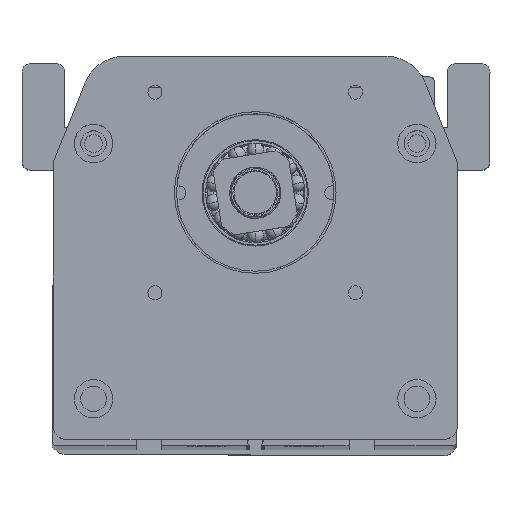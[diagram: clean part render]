
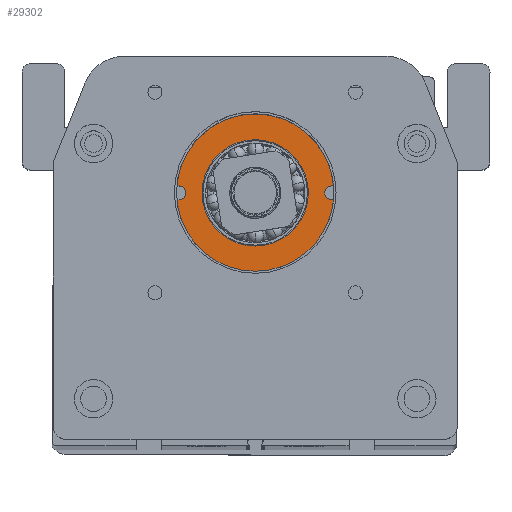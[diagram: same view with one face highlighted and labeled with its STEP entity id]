
A CAD part, top view. The second image highlights one B-rep face of the part: STEP entity #29302.
In plain terms, the highlighted planar face has unit normal (0, 0, 1) as drawn and (0, 0, -1) by its records, which use the part's own axes.
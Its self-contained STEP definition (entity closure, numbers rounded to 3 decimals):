
#535 = DIRECTION ( 'NONE',  ( 0., 0., -1. ) ) ;
#1236 = VERTEX_POINT ( 'NONE', #11070 ) ;
#1275 = CARTESIAN_POINT ( 'NONE',  ( 22.387, 121.669, 51. ) ) ;
#1483 = DIRECTION ( 'NONE',  ( -1., 0., 0. ) ) ;
#1693 = ORIENTED_EDGE ( 'NONE', *, *, #15976, .T. ) ;
#2943 = ORIENTED_EDGE ( 'NONE', *, *, #37192, .F. ) ;
#2957 = DIRECTION ( 'NONE',  ( 0., 0., -1. ) ) ;
#3903 = CARTESIAN_POINT ( 'NONE',  ( 26.737, 172.669, 51. ) ) ;
#4554 = ORIENTED_EDGE ( 'NONE', *, *, #18335, .T. ) ;
#4703 = EDGE_CURVE ( 'NONE', #13064, #36298, #19117, .T. ) ;
#5327 = LINE ( 'NONE', #12278, #20343 ) ;
#5365 = EDGE_CURVE ( 'NONE', #36298, #13064, #11065, .T. ) ;
#6071 = EDGE_CURVE ( 'NONE', #24659, #21036, #17777, .T. ) ;
#6321 = VERTEX_POINT ( 'NONE', #22342 ) ;
#7499 = VERTEX_POINT ( 'NONE', #37411 ) ;
#7793 = CARTESIAN_POINT ( 'NONE',  ( 20.737, 121.669, 51. ) ) ;
#7903 = CIRCLE ( 'NONE', #18409, 18.5 ) ;
#8096 = AXIS2_PLACEMENT_3D ( 'NONE', #32168, #17189, #38153 ) ;
#8522 = CARTESIAN_POINT ( 'NONE',  ( 0., 148.669, 51. ) ) ;
#9761 = VECTOR ( 'NONE', #15971, 1000. ) ;
#10241 = DIRECTION ( 'NONE',  ( 0., 0., -1. ) ) ;
#10298 = CARTESIAN_POINT ( 'NONE',  ( 38.737, 121.669, 51. ) ) ;
#10783 = DIRECTION ( 'NONE',  ( -1., 0., 0. ) ) ;
#10807 = EDGE_CURVE ( 'NONE', #32554, #7499, #32050, .T. ) ;
#11065 = CIRCLE ( 'NONE', #18578, 12.5 ) ;
#11070 = CARTESIAN_POINT ( 'NONE',  ( 20.306, 123.262, 51. ) ) ;
#11121 = PLANE ( 'NONE',  #8096 ) ;
#11403 = ORIENTED_EDGE ( 'NONE', *, *, #22640, .T. ) ;
#11867 = VERTEX_POINT ( 'NONE', #16610 ) ;
#12278 = CARTESIAN_POINT ( 'NONE',  ( 50.737, 172.669, 51. ) ) ;
#12319 = DIRECTION ( 'NONE',  ( 0., 0., -1. ) ) ;
#12494 = ORIENTED_EDGE ( 'NONE', *, *, #38369, .T. ) ;
#12660 = FACE_OUTER_BOUND ( 'NONE', #35994, .T. ) ;
#13062 = DIRECTION ( 'NONE',  ( 0., 0., -1. ) ) ;
#13064 = VERTEX_POINT ( 'NONE', #24551 ) ;
#13337 = DIRECTION ( 'NONE',  ( -1., 0., 0. ) ) ;
#13383 = CARTESIAN_POINT ( 'NONE',  ( 26.237, 121.669, 51. ) ) ;
#14321 = ORIENTED_EDGE ( 'NONE', *, *, #23495, .T. ) ;
#15159 = EDGE_CURVE ( 'NONE', #1236, #25684, #24048, .T. ) ;
#15877 = CARTESIAN_POINT ( 'NONE',  ( 38.737, 121.669, 51. ) ) ;
#15971 = DIRECTION ( 'NONE',  ( 0., -1., 0. ) ) ;
#15976 = EDGE_CURVE ( 'NONE', #32554, #11867, #28272, .T. ) ;
#16610 = CARTESIAN_POINT ( 'NONE',  ( 20.306, 120.076, 51. ) ) ;
#16846 = DIRECTION ( 'NONE',  ( 1., 0., 0. ) ) ;
#17189 = DIRECTION ( 'NONE',  ( 0., 0., -1. ) ) ;
#17445 = EDGE_LOOP ( 'NONE', ( #23437, #36715 ) ) ;
#17777 = LINE ( 'NONE', #3903, #9761 ) ;
#17880 = CARTESIAN_POINT ( 'NONE',  ( 26.737, 135.749, 51. ) ) ;
#18062 = AXIS2_PLACEMENT_3D ( 'NONE', #10298, #31364, #13337 ) ;
#18335 = EDGE_CURVE ( 'NONE', #23414, #6321, #7903, .T. ) ;
#18347 = DIRECTION ( 'NONE',  ( 0., -1., 0. ) ) ;
#18409 = AXIS2_PLACEMENT_3D ( 'NONE', #37392, #19442, #1483 ) ;
#18488 = CARTESIAN_POINT ( 'NONE',  ( 38.737, 121.669, 51. ) ) ;
#18578 = AXIS2_PLACEMENT_3D ( 'NONE', #30350, #12319, #33350 ) ;
#18869 = DIRECTION ( 'NONE',  ( -1., 0., 0. ) ) ;
#19117 = CIRCLE ( 'NONE', #18062, 12.5 ) ;
#19442 = DIRECTION ( 'NONE',  ( 0., 0., -1. ) ) ;
#20262 = LINE ( 'NONE', #8522, #34353 ) ;
#20343 = VECTOR ( 'NONE', #18347, 1000. ) ;
#20352 = AXIS2_PLACEMENT_3D ( 'NONE', #18488, #535, #21509 ) ;
#20592 = AXIS2_PLACEMENT_3D ( 'NONE', #7793, #28830, #10783 ) ;
#20929 = CARTESIAN_POINT ( 'NONE',  ( 56.737, 121.669, 51. ) ) ;
#20997 = AXIS2_PLACEMENT_3D ( 'NONE', #28268, #10241, #31297 ) ;
#21036 = VERTEX_POINT ( 'NONE', #17880 ) ;
#21366 = CIRCLE ( 'NONE', #23430, 1.65 ) ;
#21414 = CARTESIAN_POINT ( 'NONE',  ( 26.737, 148.669, 51. ) ) ;
#21509 = DIRECTION ( 'NONE',  ( -1., 0., 0. ) ) ;
#22342 = CARTESIAN_POINT ( 'NONE',  ( 57.169, 123.262, 51. ) ) ;
#22640 = EDGE_CURVE ( 'NONE', #24659, #34919, #20262, .T. ) ;
#23414 = VERTEX_POINT ( 'NONE', #33333 ) ;
#23430 = AXIS2_PLACEMENT_3D ( 'NONE', #20929, #2957, #23926 ) ;
#23437 = ORIENTED_EDGE ( 'NONE', *, *, #5365, .F. ) ;
#23495 = EDGE_CURVE ( 'NONE', #1236, #21036, #29652, .T. ) ;
#23926 = DIRECTION ( 'NONE',  ( -1., 0., 0. ) ) ;
#24048 = CIRCLE ( 'NONE', #20592, 1.65 ) ;
#24163 = EDGE_CURVE ( 'NONE', #25684, #11867, #24709, .T. ) ;
#24551 = CARTESIAN_POINT ( 'NONE',  ( 51.237, 121.669, 51. ) ) ;
#24659 = VERTEX_POINT ( 'NONE', #21414 ) ;
#24709 = CIRCLE ( 'NONE', #26882, 1.65 ) ;
#25684 = VERTEX_POINT ( 'NONE', #1275 ) ;
#25694 = ORIENTED_EDGE ( 'NONE', *, *, #24163, .F. ) ;
#26597 = ORIENTED_EDGE ( 'NONE', *, *, #6071, .F. ) ;
#26882 = AXIS2_PLACEMENT_3D ( 'NONE', #31066, #13062, #34041 ) ;
#27523 = ORIENTED_EDGE ( 'NONE', *, *, #15159, .F. ) ;
#28268 = CARTESIAN_POINT ( 'NONE',  ( 56.737, 121.669, 51. ) ) ;
#28272 = CIRCLE ( 'NONE', #20352, 18.5 ) ;
#28657 = FACE_BOUND ( 'NONE', #17445, .T. ) ;
#28830 = DIRECTION ( 'NONE',  ( 0., 0., -1. ) ) ;
#29302 = ADVANCED_FACE ( 'NONE', ( #12660, #28657 ), #11121, .T. ) ;
#29652 = CIRCLE ( 'NONE', #32403, 18.5 ) ;
#30350 = CARTESIAN_POINT ( 'NONE',  ( 38.737, 121.669, 51. ) ) ;
#30935 = CARTESIAN_POINT ( 'NONE',  ( 50.737, 148.669, 51. ) ) ;
#31066 = CARTESIAN_POINT ( 'NONE',  ( 20.737, 121.669, 51. ) ) ;
#31297 = DIRECTION ( 'NONE',  ( -1., 0., 0. ) ) ;
#31364 = DIRECTION ( 'NONE',  ( 0., 0., -1. ) ) ;
#32050 = CIRCLE ( 'NONE', #20997, 1.65 ) ;
#32168 = CARTESIAN_POINT ( 'NONE',  ( 26.737, 172.669, 51. ) ) ;
#32403 = AXIS2_PLACEMENT_3D ( 'NONE', #15877, #36818, #18869 ) ;
#32554 = VERTEX_POINT ( 'NONE', #37383 ) ;
#33333 = CARTESIAN_POINT ( 'NONE',  ( 50.737, 135.749, 51. ) ) ;
#33350 = DIRECTION ( 'NONE',  ( -1., 0., 0. ) ) ;
#34041 = DIRECTION ( 'NONE',  ( -1., 0., 0. ) ) ;
#34353 = VECTOR ( 'NONE', #16846, 1000. ) ;
#34919 = VERTEX_POINT ( 'NONE', #30935 ) ;
#35994 = EDGE_LOOP ( 'NONE', ( #14321, #26597, #11403, #12494, #4554, #2943, #36503, #1693, #25694, #27523 ) ) ;
#36298 = VERTEX_POINT ( 'NONE', #13383 ) ;
#36503 = ORIENTED_EDGE ( 'NONE', *, *, #10807, .F. ) ;
#36715 = ORIENTED_EDGE ( 'NONE', *, *, #4703, .F. ) ;
#36818 = DIRECTION ( 'NONE',  ( 0., 0., -1. ) ) ;
#37192 = EDGE_CURVE ( 'NONE', #7499, #6321, #21366, .T. ) ;
#37383 = CARTESIAN_POINT ( 'NONE',  ( 57.169, 120.076, 51. ) ) ;
#37392 = CARTESIAN_POINT ( 'NONE',  ( 38.737, 121.669, 51. ) ) ;
#37411 = CARTESIAN_POINT ( 'NONE',  ( 55.087, 121.669, 51. ) ) ;
#38153 = DIRECTION ( 'NONE',  ( -1., 0., 0. ) ) ;
#38369 = EDGE_CURVE ( 'NONE', #34919, #23414, #5327, .T. ) ;
